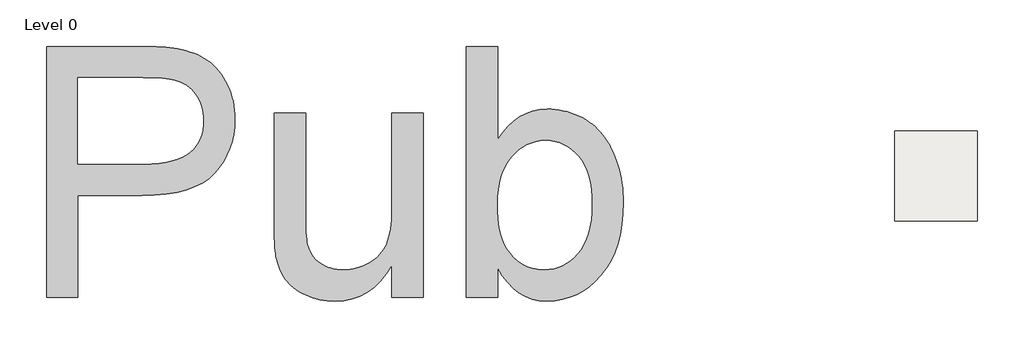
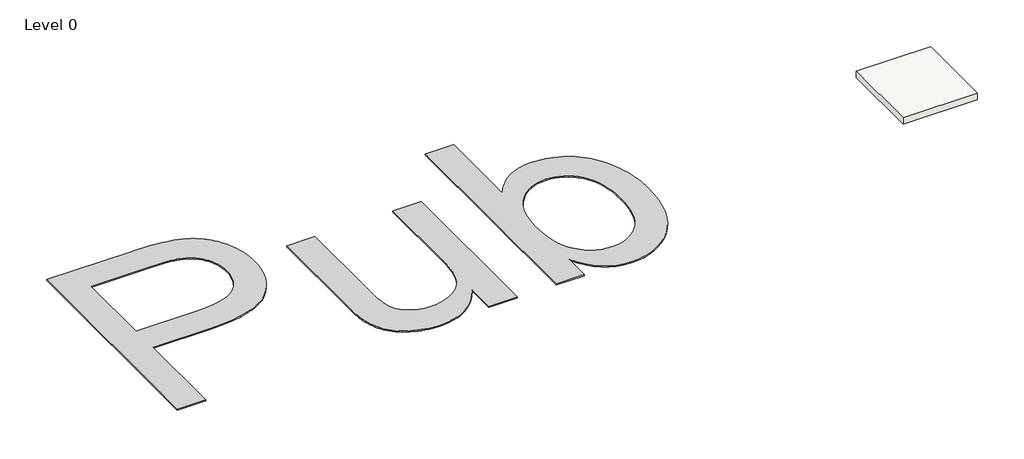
# One storey, incomplete: 1 proxy, 1 slab.
"""IFC4 building model written with IfcOpenShell, lengths in millimetres."""

from ifc_helpers import new_model, si_unit, frame, origin, origin_with_axes, place, context, project, spatial, polyline, outline, extrude, element, save

model = new_model("IFC4")

# Units and contexts
model_context = context("Model", 3, world=origin())
ifc_project = project(units=[si_unit("LENGTHUNIT", "METRE", prefix="MILLI")], contexts=[model_context])

# Site, building, storey
site = spatial("IfcSite", under=ifc_project)
building = spatial("IfcBuilding", under=site)
storey = spatial("IfcBuildingStorey", under=building, Name="Level 0", Elevation=0.0)

# Proxy
placement = place(None, origin())
element("IfcBuildingElementProxy", 1, Name="10 mm", ObjectType="10 mm", at=placement, inside=storey, context=model_context, shape_type="SweptSolid", body=[
    extrude(outline(polyline([(-138987.556308, 70710.4267394), (-138987.556308, 80756.0577544), (-135264.5905168, 80756.0577544), (-135026.0037145, 80754.5632338), (-134801.9789079, 80750.0796719), (-134592.5160969, 80742.6070689), (-134397.6152815, 80732.1454247), (-134217.2764618, 80718.6947392), (-134051.4996377, 80702.2550126), (-133900.2848093, 80682.8262447), (-133763.6319765, 80660.4084356), (-133585.2283694, 80626.2452274), (-133414.2207232, 80585.0692687), (-133250.6090379, 80536.8805594), (-133094.3933136, 80481.6790996), (-132945.5735503, 80419.4648893), (-132804.1497478, 80350.2379284), (-132670.1219064, 80273.998217), (-132543.4900258, 80190.7457551), (-132423.5643275, 80099.6566403), (-132309.6550327, 79999.9069701), (-132201.7621413, 79891.4967447), (-132099.8856533, 79774.4259639), (-132004.0255688, 79648.6946278), (-131914.1818878, 79514.3027365), (-131830.3546103, 79371.2502898), (-131752.5437362, 79219.5372878), (-131682.4162309, 79061.5971167), (-131621.6390596, 78899.8631625), (-131570.2122223, 78734.3354251), (-131528.1357191, 78565.0139048), (-131495.40955, 78391.8986013), (-131472.0337149, 78214.9895148), (-131458.0082138, 78034.2866452), (-131453.3330468, 77849.7899925), (-131465.9598299, 77535.2892076), (-131503.8401791, 77233.1277981), (-131566.9740944, 76943.3057637), (-131655.3615758, 76665.8231047), (-131769.0026234, 76400.6798208), (-131907.8972371, 76147.8759123), (-132072.0454169, 75907.411379), (-132261.4471629, 75679.2862209), (-132483.8050042, 75471.2029674), (-132746.8214703, 75290.8641477), (-133050.496561, 75138.2697618), (-133394.8302763, 75013.4198097), (-133779.8226164, 74916.3142914), (-134205.4735811, 74846.9532068), (-134671.7831705, 74805.3365561), (-135178.7513846, 74791.4643392), (-137731.8524311, 74791.4643392), (-137731.8524311, 70710.4267394), (-138987.556308, 70710.4267394)]), holes=[polyline([(-137731.8524311, 76047.1682161), (-135105.1749856, 76047.1682161), (-134791.4023005, 76054.3725718), (-134501.2353768, 76075.9856391), (-134234.6742145, 76112.0074178), (-133991.7188135, 76162.4379079), (-133772.3691739, 76227.2771096), (-133576.6252956, 76306.5250227), (-133404.4871787, 76400.1816473), (-133255.9548232, 76508.2469834), (-133127.7709405, 76629.3797945), (-133016.6782421, 76762.2388442), (-132922.6767282, 76906.8241325), (-132845.7663985, 77063.1356595), (-132785.9472533, 77231.173425), (-132743.2192924, 77410.9374291), (-132717.5825158, 77602.4276718), (-132709.0369237, 77805.6441531), (-132714.0761406, 77954.9429294), (-132729.1937913, 78098.7234759), (-132754.3898759, 78236.9857924), (-132789.6643943, 78369.729879), (-132835.0173465, 78496.9557357), (-132890.4487325, 78618.6633624), (-132955.9585524, 78734.8527592), (-133031.5468061, 78845.5239261), (-133115.3357626, 78948.8374531), (-133205.4476909, 79042.9539302), (-133301.882591, 79127.8733574), (-133404.6404629, 79203.5957347), (-133513.7213066, 79270.1210622), (-133629.125122, 79327.4493398), (-133750.8519093, 79375.5805675), (-133878.9016683, 79414.5147453), (-133973.0947875, 79434.6332919), (-134085.222154, 79452.0693656), (-134215.2837677, 79466.8229665), (-134363.2796286, 79478.8940944), (-134529.2097369, 79488.2827495), (-134713.0740924, 79494.9889317), (-135134.6055452, 79500.3538775), (-137731.8524311, 79500.3538775), (-137731.8524311, 76047.1682161)])]), origin_with_axes(), (0.0, 0.0, 1.0), 50.0),
    extrude(outline(polyline([(-125174.8136624, 70710.4267394), (-125174.8136624, 71978.3933495), (-125392.6304604, 71644.4254757), (-125629.1479265, 71354.9866518), (-125884.3660606, 71110.0768777), (-126158.2848629, 70909.6961535), (-126450.9043332, 70753.844479), (-126762.2244716, 70642.5218545), (-127092.2452781, 70575.7282797), (-127440.9667527, 70553.4637548), (-127597.8339347, 70557.372501), (-127752.0569649, 70569.0987396), (-127903.6358432, 70588.6424706), (-128052.5705697, 70616.003694), (-128198.8611444, 70651.1824098), (-128342.5075672, 70694.178618), (-128483.5098381, 70744.9923185), (-128621.8679573, 70803.6235115), (-128754.4970807, 70868.1561448), (-128878.3123647, 70936.6741664), (-128993.3138093, 71009.1775763), (-129099.5014143, 71085.6663745), (-129196.8751799, 71166.1405609), (-129285.4351061, 71250.6001357), (-129365.1811927, 71339.0450987), (-129436.1134399, 71431.47545), (-129500.1670602, 71528.5426472), (-129559.2772662, 71630.8981482), (-129613.4440579, 71738.5419528), (-129662.6674353, 71851.4740611), (-129706.9473983, 71969.6944731), (-129746.2839471, 72093.2031888), (-129780.6770815, 72222.0002081), (-129810.1268017, 72356.0855312), (-129827.3712702, 72454.8005332), (-129842.3164763, 72567.0045417), (-129854.9624198, 72692.6975568), (-129865.309101, 72831.8795783), (-129879.1046758, 73150.7106407), (-129883.7032007, 73523.4977292), (-129883.7032007, 78087.687016), (-128627.9993238, 78087.687016), (-128627.9993238, 74114.5614681), (-128623.2475147, 73678.6213038), (-128608.9920874, 73319.9363585), (-128598.3005169, 73169.564593), (-128585.2330419, 73038.5066322), (-128569.7896623, 72926.7624762), (-128551.9703782, 72834.3321249), (-128518.4586277, 72717.9702834), (-128476.7844954, 72608.0080558), (-128426.9479814, 72504.445442), (-128368.9490856, 72407.2824422), (-128302.787808, 72316.5190562), (-128228.4641487, 72232.155284), (-128145.9781076, 72154.1911258), (-128055.3296847, 72082.6265814), (-127957.8217954, 72018.5346401), (-127854.7573552, 71962.9882909), (-127746.136364, 71915.9875339), (-127631.9588219, 71877.5323691), (-127512.2247288, 71847.6227965), (-127386.9340847, 71826.258816), (-127256.0868896, 71813.4404278), (-127119.6831436, 71809.1676317), (-126980.9801351, 71813.5362304), (-126844.461426, 71826.6420264), (-126710.1270162, 71848.4850199), (-126577.9769057, 71879.0652108), (-126448.0110946, 71918.382599), (-126320.2295828, 71966.4371846), (-126194.6323704, 72023.2289676), (-126071.2194574, 72088.757948), (-125953.3630953, 72161.817013), (-125844.4355358, 72241.1990498), (-125744.4367788, 72326.9040583), (-125653.3668245, 72418.9320387), (-125571.2256728, 72517.2829908), (-125498.0133236, 72621.9569148), (-125433.7297771, 72732.9538105), (-125378.3750331, 72850.273678), (-125330.6653369, 72977.5570162), (-125289.3169334, 73118.4443241), (-125254.3298229, 73272.9356015), (-125225.7040051, 73441.0308486), (-125203.4394802, 73622.7300653), (-125187.5362481, 73818.0332516), (-125177.9943089, 74026.9404075), (-125174.8136624, 74249.451533), (-125174.8136624, 78087.687016), (-123919.1097856, 78087.687016), (-123919.1097856, 70710.4267394), (-125174.8136624, 70710.4267394)])), origin_with_axes(), (0.0, 0.0, 1.0), 50.0),
    extrude(outline(polyline([(-120936.813078, 70710.4267394), (-122192.5169549, 70710.4267394), (-122192.5169549, 80756.0577544), (-120936.813078, 80756.0577544), (-120936.813078, 77030.6394165), (-120737.0071694, 77315.1731472), (-120523.8655384, 77561.7690471), (-120297.3881851, 77770.4271162), (-120057.5751095, 77941.1473546), (-119804.4263116, 78073.9297622), (-119537.9417913, 78168.7743391), (-119258.1215488, 78225.6810853), (-118964.9655839, 78244.6500006), (-118799.9168596, 78240.3772045), (-118637.0907557, 78227.5588163), (-118476.4872721, 78206.1948358), (-118318.106409, 78176.2852632), (-118161.9481663, 78137.8300984), (-118008.0125439, 78090.8293414), (-117856.2995419, 78035.2829922), (-117706.8091604, 77971.1910509), (-117561.7256985, 77899.3582592), (-117423.2334557, 77820.5893591), (-117291.3324321, 77734.8843505), (-117166.0226274, 77642.2432335), (-117047.3040419, 77542.6660081), (-116935.1766755, 77436.1526741), (-116829.6405281, 77322.7032318), (-116730.6955998, 77202.317681), (-116637.6329514, 77075.264269), (-116549.7436434, 76941.8112431), (-116467.0276761, 76801.9586034), (-116389.4850493, 76655.7063498), (-116317.1157631, 76503.0544823), (-116249.9198174, 76344.003001), (-116187.8972123, 76178.5519057), (-116131.0479477, 76006.7011966), (-116080.1767655, 75830.1369995), (-116036.0884077, 75650.5454401), (-115998.7828741, 75467.9265184), (-115968.2601648, 75282.2802345), (-115944.5202798, 75093.6065883), (-115927.5632191, 74901.9055799), (-115917.3889827, 74707.1772092), (-115913.9975705, 74509.4214763), (-115928.0422321, 74050.1054769), (-115970.1762169, 73617.6142063), (-116040.3995248, 73211.9476645), (-116138.7121559, 72833.1058516), (-116265.1141102, 72481.0887674), (-116419.6053877, 72155.8964121), (-116602.1859883, 71857.5287856), (-116812.8559121, 71585.9858879), (-117043.222851, 71343.988513), (-117284.8944971, 71134.2574547), (-117537.8708504, 70956.7927131), (-117802.1519108, 70811.5942881), (-118077.7376783, 70698.6621798), (-118364.628153, 70617.9963881), (-118662.8233348, 70569.5969131), (-118972.3232238, 70553.4637548), (-119276.6306117, 70574.2720802), (-119564.1533835, 70636.6970562), (-119834.8915393, 70740.738683), (-120088.8450791, 70886.3969604), (-120326.0140029, 71073.6718886), (-120546.3983106, 71302.5634675), (-120749.9980023, 71573.0716971), (-120936.813078, 71885.1965773), (-120936.813078, 70710.4267394)]), holes=[polyline([(-120936.813078, 74450.560357), (-120931.4481322, 74157.0211817), (-120915.353295, 73884.6352211), (-120888.5285661, 73633.4024753), (-120850.9739458, 73403.3229441), (-120802.6894339, 73194.3966277), (-120743.6750305, 73006.623526), (-120673.9307356, 72840.003639), (-120593.4565492, 72694.5369667), (-120447.4917034, 72487.0285288), (-120289.1874823, 72307.1878826), (-120118.543886, 72155.0150282), (-119935.5609145, 72030.5099654), (-119740.2385677, 71933.6726944), (-119532.5768456, 71864.5032151), (-119312.5757483, 71823.0015275), (-119080.2352757, 71809.1676317), (-118889.1665644, 71819.3610286), (-118704.6890723, 71849.9412195), (-118526.8027992, 71900.9082042), (-118355.5077452, 71972.2619829), (-118190.8039103, 72064.0025554), (-118032.6912944, 72176.1299219), (-117881.1698977, 72308.6440822), (-117736.23972, 72461.5450365), (-117603.4573123, 72634.6411794), (-117488.3792257, 72827.7409058), (-117391.0054601, 73040.8442157), (-117311.3360155, 73273.9511091), (-117249.370892, 73527.061586), (-117205.1100894, 73800.1756464), (-117178.5536079, 74093.2932903), (-117169.7014474, 74406.4145176), (-117178.189558, 74726.088643), (-117203.6538899, 75024.1497012), (-117246.094443, 75300.5976921), (-117305.5112173, 75555.4326159), (-117381.9042128, 75788.6544724), (-117475.2734296, 76000.2632617), (-117585.6188677, 76190.2589838), (-117712.9405269, 76358.6416387), (-117852.2949931, 76506.3692524), (-117998.7388519, 76634.3998509), (-118152.2721034, 76742.7334343), (-118312.8947474, 76831.3700025), (-118480.6067841, 76900.3095555), (-118655.4082133, 76949.5520934), (-118837.2990352, 76979.0976162), (-119026.2792497, 76988.9461238), (-119217.347961, 76978.7527268), (-119401.8254531, 76948.172536), (-119579.7117262, 76897.2055512), (-119751.0067802, 76825.8517726), (-119915.7106151, 76734.1112), (-120073.823231, 76621.9838336), (-120225.3446278, 76489.4696732), (-120370.2748054, 76336.568719), (-120503.0572131, 76164.392281), (-120618.1352997, 75974.0516696), (-120715.5090653, 75765.5468846), (-120795.1785099, 75538.8779261), (-120857.1436334, 75294.0447941), (-120901.404436, 75031.0474886), (-120927.9609175, 74749.8860096), (-120936.813078, 74450.560357)])]), origin_with_axes(), (0.0, 0.0, 1.0), 50.0),
])

# Slab
element("IfcSlab", 2, ObjectType="FL_300 mm_Generic", at=placement, inside=storey, context=model_context, shape_type="SweptSolid", body=[
    extrude(outline(polyline([(-101747.8885325, 77369.9753886), (-101747.8885325, 73769.9753886), (-105047.8885325, 73769.9753886), (-105047.8885325, 77369.9753886), (-101747.8885325, 77369.9753886)])), frame((0.0, 0.0, -300.0), z_axis=(0.0, 0.0, 1.0), x_axis=(1.0, 0.0, 0.0)), (0.0, 0.0, 1.0), 300.0),
])

save(model, "model.ifc")
